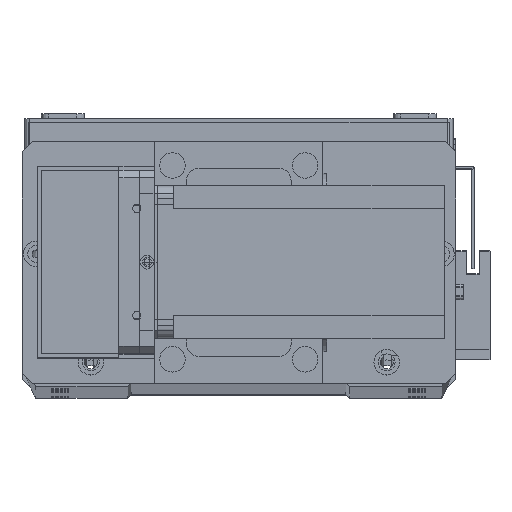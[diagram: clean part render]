
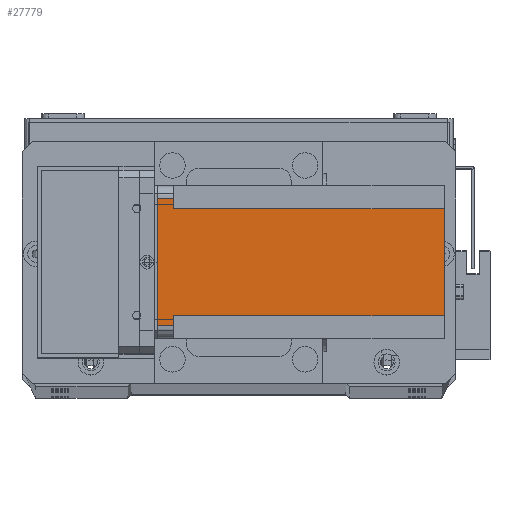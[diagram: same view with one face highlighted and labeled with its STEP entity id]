
A CAD part, top view. The second image highlights one B-rep face of the part: STEP entity #27779.
In plain terms, the highlighted planar face has unit normal (0, 0, 1) as drawn and (-1, 0, 0) by its records, which use the part's own axes.
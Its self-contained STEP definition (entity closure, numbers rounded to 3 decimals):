
#478 = CARTESIAN_POINT ( 'NONE',  ( 0., 9., -112.5 ) ) ;
#479 = CARTESIAN_POINT ( 'NONE',  ( 0., 51., -112.5 ) ) ;
#540 = VECTOR ( 'NONE', #19588, 1000. ) ;
#1460 = AXIS2_PLACEMENT_3D ( 'NONE', #6705, #9344, #27828 ) ;
#2008 = VECTOR ( 'NONE', #22949, 1000. ) ;
#2417 = VERTEX_POINT ( 'NONE', #16615 ) ;
#2879 = EDGE_CURVE ( 'NONE', #29018, #33882, #17019, .T. ) ;
#3579 = CARTESIAN_POINT ( 'NONE',  ( 0., 55., -6.5 ) ) ;
#4462 = CARTESIAN_POINT ( 'NONE',  ( 0., 60., -6.5 ) ) ;
#5473 = ORIENTED_EDGE ( 'NONE', *, *, #10200, .T. ) ;
#5583 = VECTOR ( 'NONE', #11661, 1000. ) ;
#5826 = DIRECTION ( 'NONE',  ( 0., 0., -1. ) ) ;
#6387 = CARTESIAN_POINT ( 'NONE',  ( 0., 0., -6.5 ) ) ;
#6705 = CARTESIAN_POINT ( 'NONE',  ( 0., 0., -112.5 ) ) ;
#7496 = EDGE_CURVE ( 'NONE', #12746, #2417, #25865, .T. ) ;
#8093 = DIRECTION ( 'NONE',  ( 0., 0., 1. ) ) ;
#8182 = EDGE_CURVE ( 'NONE', #12746, #33882, #19794, .T. ) ;
#9130 = VECTOR ( 'NONE', #16015, 1000. ) ;
#9344 = DIRECTION ( 'NONE',  ( -1., 0., 0. ) ) ;
#10200 = EDGE_CURVE ( 'NONE', #29018, #33031, #13062, .T. ) ;
#11052 = CARTESIAN_POINT ( 'NONE',  ( 0., 5., -6.5 ) ) ;
#11434 = VECTOR ( 'NONE', #14084, 1000. ) ;
#11575 = ORIENTED_EDGE ( 'NONE', *, *, #8182, .T. ) ;
#11661 = DIRECTION ( 'NONE',  ( 0., 1., 0. ) ) ;
#11854 = PLANE ( 'NONE',  #1460 ) ;
#11926 = VECTOR ( 'NONE', #8093, 1000. ) ;
#11978 = ORIENTED_EDGE ( 'NONE', *, *, #2879, .F. ) ;
#12622 = CARTESIAN_POINT ( 'NONE',  ( 0., 55., 0. ) ) ;
#12702 = FACE_OUTER_BOUND ( 'NONE', #22315, .T. ) ;
#12746 = VERTEX_POINT ( 'NONE', #11052 ) ;
#13062 = LINE ( 'NONE', #24367, #26293 ) ;
#13746 = ORIENTED_EDGE ( 'NONE', *, *, #24326, .F. ) ;
#13896 = EDGE_CURVE ( 'NONE', #14372, #25705, #23204, .T. ) ;
#14084 = DIRECTION ( 'NONE',  ( 0., 0., 1. ) ) ;
#14372 = VERTEX_POINT ( 'NONE', #479 ) ;
#16015 = DIRECTION ( 'NONE',  ( 0., -1., 0. ) ) ;
#16090 = EDGE_CURVE ( 'NONE', #24234, #33031, #29207, .T. ) ;
#16125 = CARTESIAN_POINT ( 'NONE',  ( 0., 51., -6.5 ) ) ;
#16615 = CARTESIAN_POINT ( 'NONE',  ( 0., 9., -6.5 ) ) ;
#17019 = LINE ( 'NONE', #29136, #9130 ) ;
#17653 = CARTESIAN_POINT ( 'NONE',  ( 0., 5., 0. ) ) ;
#18501 = LINE ( 'NONE', #29893, #11434 ) ;
#19588 = DIRECTION ( 'NONE',  ( 0., -1., 0. ) ) ;
#19794 = LINE ( 'NONE', #23922, #11926 ) ;
#21313 = CARTESIAN_POINT ( 'NONE',  ( 0., 9., -112.5 ) ) ;
#22315 = EDGE_LOOP ( 'NONE', ( #33555, #11575, #11978, #5473, #32734, #28087, #33649, #13746 ) ) ;
#22949 = DIRECTION ( 'NONE',  ( 0., 1., 0. ) ) ;
#23204 = LINE ( 'NONE', #32900, #540 ) ;
#23922 = CARTESIAN_POINT ( 'NONE',  ( 0., 5., -112.5 ) ) ;
#24234 = VERTEX_POINT ( 'NONE', #16125 ) ;
#24326 = EDGE_CURVE ( 'NONE', #2417, #25705, #26931, .T. ) ;
#24367 = CARTESIAN_POINT ( 'NONE',  ( 0., 55., -112.5 ) ) ;
#25300 = VECTOR ( 'NONE', #5826, 1000. ) ;
#25705 = VERTEX_POINT ( 'NONE', #21313 ) ;
#25865 = LINE ( 'NONE', #6387, #5583 ) ;
#26293 = VECTOR ( 'NONE', #27016, 1000. ) ;
#26931 = LINE ( 'NONE', #478, #25300 ) ;
#27016 = DIRECTION ( 'NONE',  ( 0., 0., -1. ) ) ;
#27650 = EDGE_CURVE ( 'NONE', #14372, #24234, #18501, .T. ) ;
#27779 = ADVANCED_FACE ( 'NONE', ( #12702 ), #11854, .T. ) ;
#27828 = DIRECTION ( 'NONE',  ( 0., -1., 0. ) ) ;
#28087 = ORIENTED_EDGE ( 'NONE', *, *, #27650, .F. ) ;
#29018 = VERTEX_POINT ( 'NONE', #12622 ) ;
#29136 = CARTESIAN_POINT ( 'NONE',  ( 0., 0., 0. ) ) ;
#29207 = LINE ( 'NONE', #4462, #2008 ) ;
#29893 = CARTESIAN_POINT ( 'NONE',  ( 0., 51., -112.5 ) ) ;
#32734 = ORIENTED_EDGE ( 'NONE', *, *, #16090, .F. ) ;
#32900 = CARTESIAN_POINT ( 'NONE',  ( 0., 0., -112.5 ) ) ;
#33031 = VERTEX_POINT ( 'NONE', #3579 ) ;
#33555 = ORIENTED_EDGE ( 'NONE', *, *, #7496, .F. ) ;
#33649 = ORIENTED_EDGE ( 'NONE', *, *, #13896, .T. ) ;
#33882 = VERTEX_POINT ( 'NONE', #17653 ) ;
